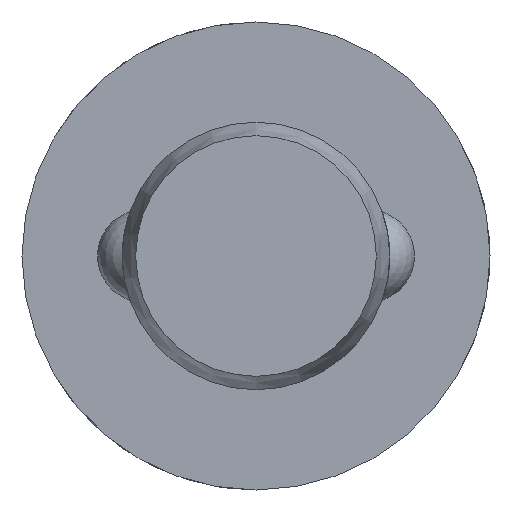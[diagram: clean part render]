
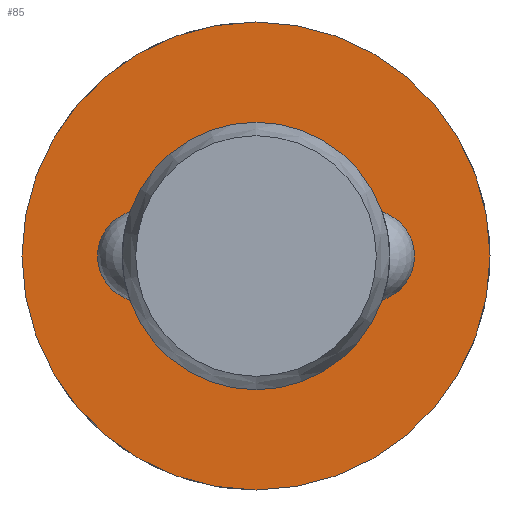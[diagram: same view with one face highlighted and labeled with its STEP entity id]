
A CAD part, left-side view. The second image highlights one B-rep face of the part: STEP entity #85.
In plain terms, the highlighted planar face has unit normal (-1, 0, 0).
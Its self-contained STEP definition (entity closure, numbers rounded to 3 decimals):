
#85 = ADVANCED_FACE( '', ( #130, #131 ), #132, .F. );
#130 = FACE_OUTER_BOUND( '', #200, .T. );
#131 = FACE_BOUND( '', #201, .T. );
#132 = PLANE( '', #202 );
#200 = EDGE_LOOP( '', ( #315 ) );
#201 = EDGE_LOOP( '', ( #316 ) );
#202 = AXIS2_PLACEMENT_3D( '', #317, #318, #319 );
#315 = ORIENTED_EDGE( '', *, *, #458, .F. );
#316 = ORIENTED_EDGE( '', *, *, #455, .T. );
#317 = CARTESIAN_POINT( '', ( 108.2, 4., 0. ) );
#318 = DIRECTION( '', ( 1., 0., 0. ) );
#319 = DIRECTION( '', ( 0., 0., -1. ) );
#455 = EDGE_CURVE( '', #528, #528, #529, .T. );
#458 = EDGE_CURVE( '', #534, #534, #535, .T. );
#528 = VERTEX_POINT( '', #732 );
#529 = CIRCLE( '', #733, 4. );
#534 = VERTEX_POINT( '', #820 );
#535 = CIRCLE( '', #821, 7. );
#732 = CARTESIAN_POINT( '', ( 108.2, 0., -4. ) );
#733 = AXIS2_PLACEMENT_3D( '', #898, #899, #900 );
#820 = CARTESIAN_POINT( '', ( 108.2, 0., -7. ) );
#821 = AXIS2_PLACEMENT_3D( '', #901, #902, #903 );
#898 = CARTESIAN_POINT( '', ( 108.2, 0., 0. ) );
#899 = DIRECTION( '', ( 1., 0., 0. ) );
#900 = DIRECTION( '', ( 0., 0., -1. ) );
#901 = CARTESIAN_POINT( '', ( 108.2, 0., 0. ) );
#902 = DIRECTION( '', ( 1., 0., 0. ) );
#903 = DIRECTION( '', ( 0., 0., -1. ) );
